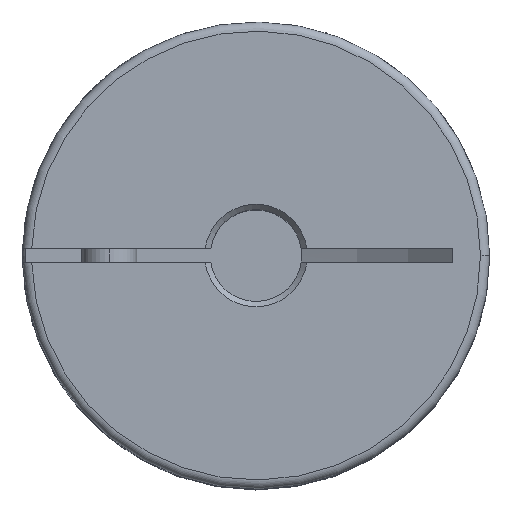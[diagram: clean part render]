
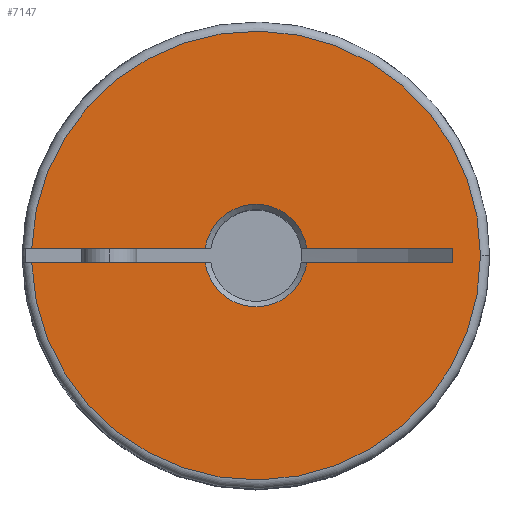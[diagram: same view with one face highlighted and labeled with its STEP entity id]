
A CAD part, top view. The second image highlights one B-rep face of the part: STEP entity #7147.
In plain terms, the highlighted planar face has unit normal (0, 0, 1).
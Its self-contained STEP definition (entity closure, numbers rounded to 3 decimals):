
#583 = CARTESIAN_POINT ( 'NONE',  ( 10.75, 0.4, 13.2 ) ) ;
#585 = DIRECTION ( 'NONE',  ( 0., -1., 0. ) ) ;
#587 = CARTESIAN_POINT ( 'NONE',  ( 10.75, 0.4, 13.2 ) ) ;
#588 = DIRECTION ( 'NONE',  ( -1., 0., 0. ) ) ;
#592 = CARTESIAN_POINT ( 'NONE',  ( 10.75, 0.4, 13.2 ) ) ;
#593 = DIRECTION ( 'NONE',  ( -1., 0., 0. ) ) ;
#594 = CARTESIAN_POINT ( 'NONE',  ( 10.75, -0.4, 13.2 ) ) ;
#595 = DIRECTION ( 'NONE',  ( -1., 0., 0. ) ) ;
#596 = CARTESIAN_POINT ( 'NONE',  ( 0., 0., 13.2 ) ) ;
#597 = DIRECTION ( 'NONE',  ( 0., 0., -1. ) ) ;
#598 = DIRECTION ( 'NONE',  ( 0., 1., 0. ) ) ;
#599 = CARTESIAN_POINT ( 'NONE',  ( 10.75, -0.4, 13.2 ) ) ;
#600 = DIRECTION ( 'NONE',  ( -1., 0., 0. ) ) ;
#601 = CARTESIAN_POINT ( 'NONE',  ( 0., 0., 13.2 ) ) ;
#602 = DIRECTION ( 'NONE',  ( 0., 0., 1. ) ) ;
#603 = DIRECTION ( 'NONE',  ( 1., 0., 0. ) ) ;
#606 = CARTESIAN_POINT ( 'NONE',  ( 0., 0., 13.2 ) ) ;
#607 = DIRECTION ( 'NONE',  ( 0., 0., -1. ) ) ;
#608 = DIRECTION ( 'NONE',  ( 0., 1., 0. ) ) ;
#1081 = EDGE_LOOP ( 'NONE', ( #3718, #3719, #3720, #3721, #3722, #3723, #3724, #3725, #3726 ) ) ;
#1751 = CARTESIAN_POINT ( 'NONE',  ( 0., 0., 13.2 ) ) ;
#1757 = PLANE ( 'NONE',  #6889 ) ;
#1760 = DIRECTION ( 'NONE',  ( 0., 0., -1. ) ) ;
#1761 = DIRECTION ( 'NONE',  ( 1., 0., 0. ) ) ;
#2067 = EDGE_CURVE ( 'NONE', #3161, #3156, #6215, .T. ) ;
#2140 = AXIS2_PLACEMENT_3D ( 'NONE', #5928, #5927, #5929 ) ;
#2280 = AXIS2_PLACEMENT_3D ( 'NONE', #596, #597, #598 ) ;
#2281 = AXIS2_PLACEMENT_3D ( 'NONE', #601, #602, #603 ) ;
#2282 = AXIS2_PLACEMENT_3D ( 'NONE', #606, #607, #608 ) ;
#2862 = EDGE_CURVE ( 'NONE', #4127, #4123, #4412, .T. ) ;
#2863 = EDGE_CURVE ( 'NONE', #4127, #5789, #4410, .T. ) ;
#2864 = EDGE_CURVE ( 'NONE', #4124, #5789, #4416, .T. ) ;
#2865 = EDGE_CURVE ( 'NONE', #4124, #3156, #4418, .T. ) ;
#2866 = EDGE_CURVE ( 'NONE', #5784, #3161, #4419, .T. ) ;
#2867 = EDGE_CURVE ( 'NONE', #5799, #5784, #4421, .T. ) ;
#2868 = EDGE_CURVE ( 'NONE', #4125, #5799, #4422, .T. ) ;
#2869 = EDGE_CURVE ( 'NONE', #4123, #4125, #4424, .T. ) ;
#3156 = VERTEX_POINT ( 'NONE', #5258 ) ;
#3161 = VERTEX_POINT ( 'NONE', #5263 ) ;
#3718 = ORIENTED_EDGE ( 'NONE', *, *, #2869, .T. ) ;
#3719 = ORIENTED_EDGE ( 'NONE', *, *, #2868, .T. ) ;
#3720 = ORIENTED_EDGE ( 'NONE', *, *, #2867, .T. ) ;
#3721 = ORIENTED_EDGE ( 'NONE', *, *, #2866, .T. ) ;
#3722 = ORIENTED_EDGE ( 'NONE', *, *, #2067, .T. ) ;
#3723 = ORIENTED_EDGE ( 'NONE', *, *, #2865, .F. ) ;
#3724 = ORIENTED_EDGE ( 'NONE', *, *, #2864, .T. ) ;
#3725 = ORIENTED_EDGE ( 'NONE', *, *, #2863, .F. ) ;
#3726 = ORIENTED_EDGE ( 'NONE', *, *, #2862, .T. ) ;
#4123 = VERTEX_POINT ( 'NONE', #5350 ) ;
#4124 = VERTEX_POINT ( 'NONE', #5351 ) ;
#4125 = VERTEX_POINT ( 'NONE', #5352 ) ;
#4127 = VERTEX_POINT ( 'NONE', #5354 ) ;
#4410 = LINE ( 'NONE', #592, #4417 ) ;
#4412 = LINE ( 'NONE', #583, #4415 ) ;
#4415 = VECTOR ( 'NONE', #585, 1000. ) ;
#4416 = CIRCLE ( 'NONE', #2280, 2.8 ) ;
#4417 = VECTOR ( 'NONE', #593, 1000. ) ;
#4418 = LINE ( 'NONE', #587, #4420 ) ;
#4419 = CIRCLE ( 'NONE', #2281, 12.25 ) ;
#4420 = VECTOR ( 'NONE', #588, 1000. ) ;
#4421 = LINE ( 'NONE', #594, #4423 ) ;
#4422 = CIRCLE ( 'NONE', #2282, 2.8 ) ;
#4423 = VECTOR ( 'NONE', #595, 1000. ) ;
#4424 = LINE ( 'NONE', #599, #4426 ) ;
#4426 = VECTOR ( 'NONE', #600, 1000. ) ;
#4861 = FACE_OUTER_BOUND ( 'NONE', #1081, .T. ) ;
#5258 = CARTESIAN_POINT ( 'NONE',  ( -12.243, 0.4, 13.2 ) ) ;
#5263 = CARTESIAN_POINT ( 'NONE',  ( 12.25, 0., 13.2 ) ) ;
#5350 = CARTESIAN_POINT ( 'NONE',  ( 10.75, -0.4, 13.2 ) ) ;
#5351 = CARTESIAN_POINT ( 'NONE',  ( -2.771, 0.4, 13.2 ) ) ;
#5352 = CARTESIAN_POINT ( 'NONE',  ( 2.771, -0.4, 13.2 ) ) ;
#5354 = CARTESIAN_POINT ( 'NONE',  ( 10.75, 0.4, 13.2 ) ) ;
#5393 = CARTESIAN_POINT ( 'NONE',  ( -12.243, -0.4, 13.2 ) ) ;
#5399 = CARTESIAN_POINT ( 'NONE',  ( 2.771, 0.4, 13.2 ) ) ;
#5407 = CARTESIAN_POINT ( 'NONE',  ( -2.771, -0.4, 13.2 ) ) ;
#5784 = VERTEX_POINT ( 'NONE', #5393 ) ;
#5789 = VERTEX_POINT ( 'NONE', #5399 ) ;
#5799 = VERTEX_POINT ( 'NONE', #5407 ) ;
#5927 = DIRECTION ( 'NONE',  ( 0., 0., 1. ) ) ;
#5928 = CARTESIAN_POINT ( 'NONE',  ( 0., 0., 13.2 ) ) ;
#5929 = DIRECTION ( 'NONE',  ( 1., 0., 0. ) ) ;
#6215 = CIRCLE ( 'NONE', #2140, 12.25 ) ;
#6889 = AXIS2_PLACEMENT_3D ( 'NONE', #1751, #1760, #1761 ) ;
#7147 = ADVANCED_FACE ( 'NONE', ( #4861 ), #1757, .F. ) ;
